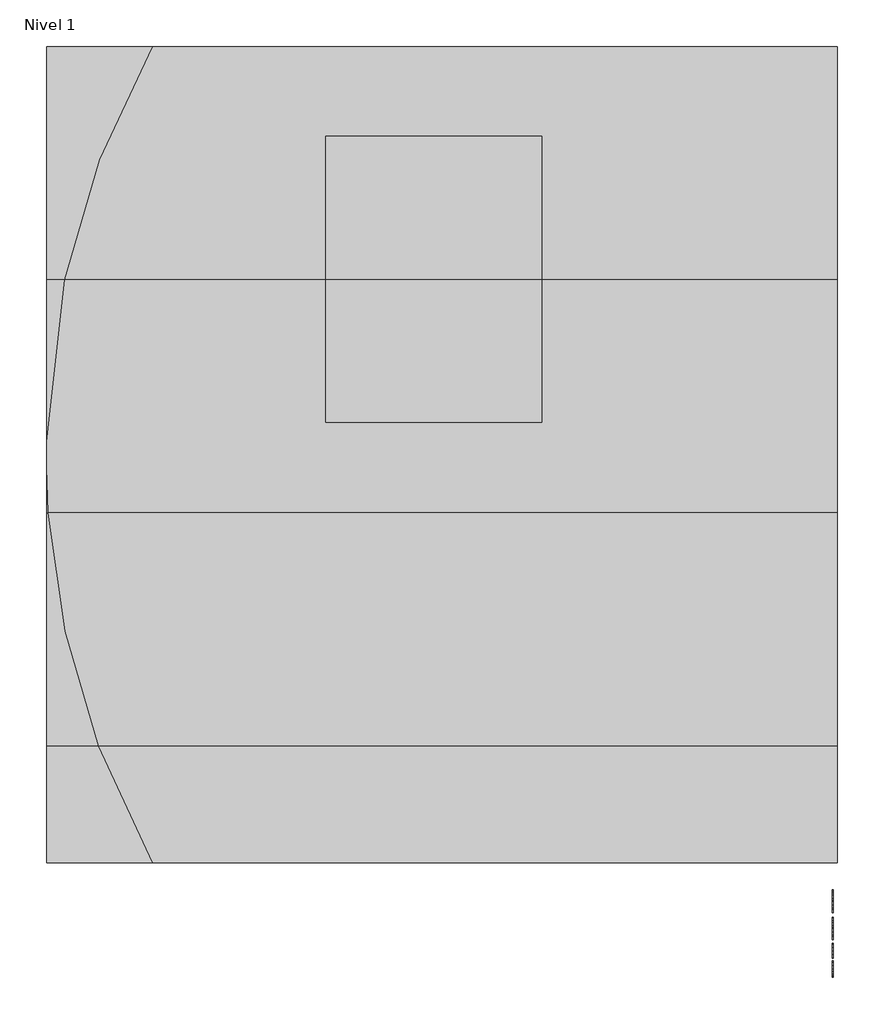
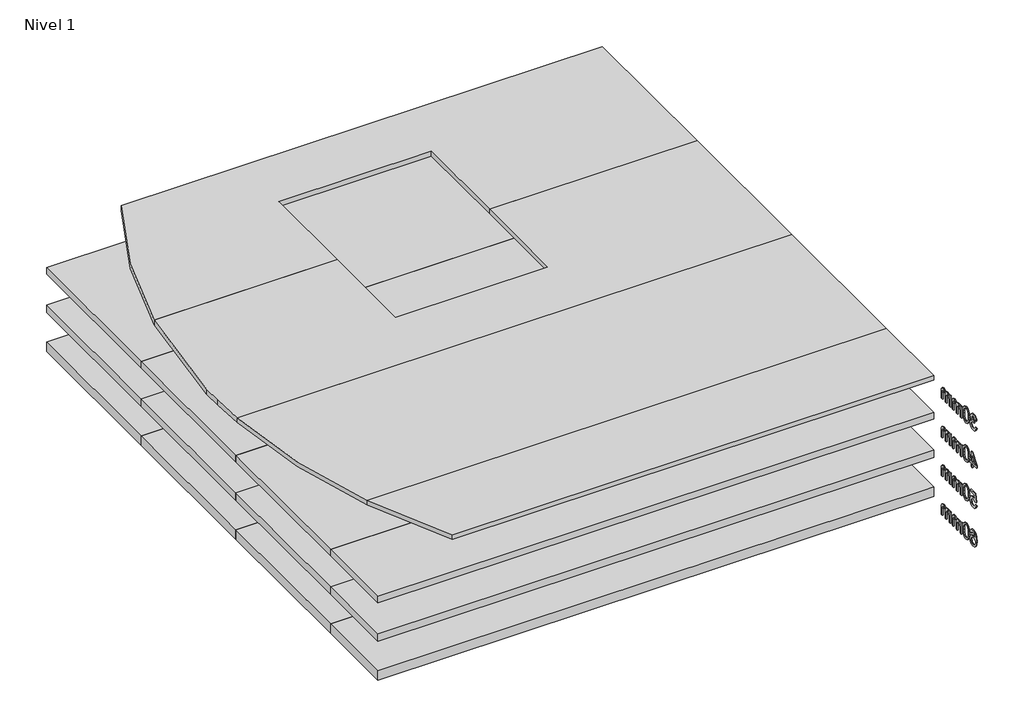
# One storey: 16 plates, 4 proxies.
"""IFC4 building model written with IfcOpenShell, lengths in millimetres."""

from ifc_helpers import new_model, si_unit, frame, origin, place, context, project, spatial, polyline, outline, extrude, transform, mapped, element, save
from components import panel_del_sistema_d493ad30, panel_del_sistema_48dafe26, panel_del_sistema_6634fb51, panel_del_sistema_deb14117, panel_del_sistema_6d8fd6c0, panel_del_sistema_f4682724, panel_del_sistema_14d703db, panel_del_sistema_e4207b6c, panel_del_sistema_6badf2b4, panel_del_sistema_0d385535

model = new_model("IFC4")

# Units and contexts
model_context = context("Model", 3, world=origin())
ifc_project = project(units=[si_unit("LENGTHUNIT", "METRE", prefix="MILLI")], contexts=[model_context])

# Site, building, storey
site = spatial("IfcSite", under=ifc_project)
building = spatial("IfcBuilding", under=site)
storey = spatial("IfcBuildingStorey", under=building, Name="Nivel 1", Elevation=0.0)

# Proxies
placement = place(None, origin())
element("IfcBuildingElementProxy", 1, Name="100mm Arial", ObjectType="100mm Arial", at=placement, inside=storey, context=model_context, shape_type="SweptSolid", body=[
    extrude(outline(polyline([(14811.6332666, -40.4578656), (14824.1903054, -38.8882358), (14831.1187496, -52.1074622), (14844.0804586, -56.1541641), (14852.6888973, -54.7623439), (14859.3352987, -50.5868832), (14865.0006814, -36.8035712), (14859.3843496, -23.8173367), (14845.1105282, -18.6792515), (14836.3058858, -20.0526776), (14837.7038373, -7.4956389), (14839.7149256, -7.6427917), (14853.9642215, -4.0375481), (14858.7098993, 0.5364513), (14860.2917918, 7.0479627), (14855.7055296, 16.8704119), (14843.8842549, 20.7576984), (14831.9158273, 16.8336237), (14825.7599352, 5.0613999), (14813.2028965, 6.6310297), (14816.9001105, 17.9066129), (14823.4790669, 26.3249792), (14832.479913, 31.5672976), (14843.4427965, 33.3147371), (14858.5872719, 29.8689091), (14869.1822734, 20.45113), (14872.8488306, 7.7837267), (14869.3662144, -3.7922935), (14859.0655185, -12.1064266), (14872.7507287, -20.6903398), (14877.5577201, -37.0243004), (14875.1542244, -49.2625081), (14867.9437373, -59.4896275), (14857.0605616, -66.405809), (14843.6390002, -68.7112029), (14831.4988943, -66.7430342), (14821.6151314, -60.8385282), (14814.7418695, -51.8070252), (14811.6332666, -40.4578656)])), frame((9557.0230098, 0.0, 0.0), z_axis=(1.0, 0.0, 0.0), x_axis=(0.0, 1.0, 0.0)), (0.0, 0.0, 1.0), 5.0),
    extrude(outline(polyline([(14888.5451291, -17.7227583), (14892.2362118, 11.1805037), (14903.1990952, 27.8455581), (14921.5073558, 33.3147371), (14936.1735847, 30.0773756), (14946.3026023, 20.7454356), (14952.1887142, 5.883003), (14954.4695826, -17.7227583), (14950.8152881, -46.5033931), (14939.8891929, -63.2052357), (14931.6578332, -67.3347111), (14921.5073558, -68.7112029), (14908.4598077, -66.3199699), (14898.5515193, -59.146271), (14891.0467266, -42.1562542), (14888.5451291, -17.7227583)]), holes=[polyline([(14901.1021678, -17.6982329), (14902.5736958, -37.4504303), (14906.9882798, -48.8823633), (14913.5611047, -54.3362139), (14921.5073558, -56.1541641), (14929.4536069, -54.3300825), (14936.0264319, -48.8578379), (14940.4410159, -37.4197735), (14941.9125438, -17.6982329), (14940.4900668, 1.6094405), (14936.2226356, 13.1302783), (14929.6620734, 18.8508433), (14921.360203, 20.7576984), (14913.4997911, 19.0777039), (14907.1844835, 14.0377206), (14902.6227467, 1.7995129), (14901.1021678, -17.6982329)])]), frame((9557.0230098, 0.0, 0.0), z_axis=(1.0, 0.0, 0.0), x_axis=(0.0, 1.0, 0.0)), (0.0, 0.0, 1.0), 5.0),
    extrude(outline(polyline([(14968.5962512, -67.141573), (14968.5962512, 6.6310297), (14981.15329, 6.6310297), (14981.15329, -5.5090761), (14989.7862541, 4.4360005), (15002.0735128, 8.2006596), (15014.655077, 4.3624241), (15021.5712585, -6.3919929), (15031.3691823, 4.5524965), (15043.7422801, 8.2006596), (15053.181519, 6.6831464), (15060.1620798, 2.1306067), (15064.4754962, -5.5795868), (15065.9133017, -16.5700614), (15065.9133017, -67.141573), (15053.3562629, -67.141573), (15053.3562629, -21.965664), (15052.1913033, -11.4810272), (15047.972923, -6.3184165), (15040.7992241, -4.3563792), (15028.4506518, -9.3840998), (15024.7626348, -15.9262679), (15023.5332958, -25.4973312), (15023.5332958, -67.141573), (15010.9762571, -67.141573), (15010.9762571, -20.5677124), (15008.0699893, -8.4030811), (14998.5418456, -4.3563792), (14989.2466939, -7.0541805), (14983.0662764, -14.9513806), (14981.15329, -29.9364406), (14981.15329, -67.141573), (14968.5962512, -67.141573)])), frame((9557.0230098, 0.0, 0.0), z_axis=(1.0, 0.0, 0.0), x_axis=(0.0, 1.0, 0.0)), (0.0, 0.0, 1.0), 5.0),
    extrude(outline(polyline([(15084.7488598, -67.141573), (15084.7488598, 6.6310297), (15097.3058986, 6.6310297), (15097.3058986, -5.5090761), (15105.9388628, 4.4360005), (15118.2261214, 8.2006596), (15130.8076856, 4.3624241), (15137.7238671, -6.3919929), (15147.5217909, 4.5524965), (15159.8948887, 8.2006596), (15169.3341276, 6.6831464), (15176.3146884, 2.1306067), (15180.6281048, -5.5795868), (15182.0659103, -16.5700614), (15182.0659103, -67.141573), (15169.5088715, -67.141573), (15169.5088715, -21.965664), (15168.3439119, -11.4810272), (15164.1255317, -6.3184165), (15156.9518327, -4.3563792), (15144.6032604, -9.3840998), (15140.9152434, -15.9262679), (15139.6859044, -25.4973312), (15139.6859044, -67.141573), (15127.1288657, -67.141573), (15127.1288657, -20.5677124), (15124.2225979, -8.4030811), (15114.6944542, -4.3563792), (15105.3993025, -7.0541805), (15099.218885, -14.9513806), (15097.3058986, -29.9364406), (15097.3058986, -67.141573), (15084.7488598, -67.141573)])), frame((9557.0230098, 0.0, 0.0), z_axis=(1.0, 0.0, 0.0), x_axis=(0.0, 1.0, 0.0)), (0.0, 0.0, 1.0), 5.0),
])
element("IfcBuildingElementProxy", 2, Name="100mm Arial", ObjectType="100mm Arial", at=placement, inside=storey, context=model_context, shape_type="SweptSolid", body=[
    extrude(outline(polyline([(14852.4436426, -317.141573), (14852.4436426, -293.5971253), (14806.9243771, -293.5971253), (14806.9243771, -281.0400866), (14855.5829023, -218.2548927), (14865.0006814, -218.2548927), (14865.0006814, -281.0400866), (14877.5577201, -281.0400866), (14877.5577201, -293.5971253), (14865.0006814, -293.5971253), (14865.0006814, -317.141573), (14852.4436426, -317.141573)]), holes=[polyline([(14852.4436426, -281.0400866), (14852.4436426, -242.2407988), (14822.3754209, -281.0400866), (14852.4436426, -281.0400866)])]), frame((9557.0230098, 0.0, 0.0), z_axis=(1.0, 0.0, 0.0), x_axis=(0.0, 1.0, 0.0)), (0.0, 0.0, 1.0), 5.0),
    extrude(outline(polyline([(14888.5451291, -267.7227583), (14892.2362118, -238.8194963), (14903.1990952, -222.1544419), (14921.5073558, -216.6852629), (14936.1735847, -219.9226244), (14946.3026023, -229.2545644), (14952.1887142, -244.116997), (14954.4695826, -267.7227583), (14950.8152881, -296.5033931), (14939.8891929, -313.2052357), (14931.6578332, -317.3347111), (14921.5073558, -318.7112029), (14908.4598077, -316.3199699), (14898.5515193, -309.146271), (14891.0467266, -292.1562542), (14888.5451291, -267.7227583)]), holes=[polyline([(14901.1021678, -267.6982329), (14902.5736958, -287.4504303), (14906.9882798, -298.8823633), (14913.5611047, -304.3362139), (14921.5073558, -306.1541641), (14929.4536069, -304.3300825), (14936.0264319, -298.8578379), (14940.4410159, -287.4197735), (14941.9125438, -267.6982329), (14940.4900668, -248.3905595), (14936.2226356, -236.8697217), (14929.6620734, -231.1491567), (14921.360203, -229.2423016), (14913.4997911, -230.9222961), (14907.1844835, -235.9622794), (14902.6227467, -248.2004871), (14901.1021678, -267.6982329)])]), frame((9557.0230098, 0.0, 0.0), z_axis=(1.0, 0.0, 0.0), x_axis=(0.0, 1.0, 0.0)), (0.0, 0.0, 1.0), 5.0),
    extrude(outline(polyline([(14968.5962512, -317.141573), (14968.5962512, -243.3689703), (14981.15329, -243.3689703), (14981.15329, -255.5090761), (14989.7862541, -245.5639995), (15002.0735128, -241.7993404), (15014.655077, -245.6375759), (15021.5712585, -256.3919929), (15031.3691823, -245.4475035), (15043.7422801, -241.7993404), (15053.181519, -243.3168536), (15060.1620798, -247.8693933), (15064.4754962, -255.5795868), (15065.9133017, -266.5700614), (15065.9133017, -317.141573), (15053.3562629, -317.141573), (15053.3562629, -271.965664), (15052.1913033, -261.4810272), (15047.972923, -256.3184165), (15040.7992241, -254.3563792), (15028.4506518, -259.3840998), (15024.7626348, -265.9262679), (15023.5332958, -275.4973312), (15023.5332958, -317.141573), (15010.9762571, -317.141573), (15010.9762571, -270.5677124), (15008.0699893, -258.4030811), (14998.5418456, -254.3563792), (14989.2466939, -257.0541805), (14983.0662764, -264.9513806), (14981.15329, -279.9364406), (14981.15329, -317.141573), (14968.5962512, -317.141573)])), frame((9557.0230098, 0.0, 0.0), z_axis=(1.0, 0.0, 0.0), x_axis=(0.0, 1.0, 0.0)), (0.0, 0.0, 1.0), 5.0),
    extrude(outline(polyline([(15084.7488598, -317.141573), (15084.7488598, -243.3689703), (15097.3058986, -243.3689703), (15097.3058986, -255.5090761), (15105.9388628, -245.5639995), (15118.2261214, -241.7993404), (15130.8076856, -245.6375759), (15137.7238671, -256.3919929), (15147.5217909, -245.4475035), (15159.8948887, -241.7993404), (15169.3341276, -243.3168536), (15176.3146884, -247.8693933), (15180.6281048, -255.5795868), (15182.0659103, -266.5700614), (15182.0659103, -317.141573), (15169.5088715, -317.141573), (15169.5088715, -271.965664), (15168.3439119, -261.4810272), (15164.1255317, -256.3184165), (15156.9518327, -254.3563792), (15144.6032604, -259.3840998), (15140.9152434, -265.9262679), (15139.6859044, -275.4973312), (15139.6859044, -317.141573), (15127.1288657, -317.141573), (15127.1288657, -270.5677124), (15124.2225979, -258.4030811), (15114.6944542, -254.3563792), (15105.3993025, -257.0541805), (15099.218885, -264.9513806), (15097.3058986, -279.9364406), (15097.3058986, -317.141573), (15084.7488598, -317.141573)])), frame((9557.0230098, 0.0, 0.0), z_axis=(1.0, 0.0, 0.0), x_axis=(0.0, 1.0, 0.0)), (0.0, 0.0, 1.0), 5.0),
])
element("IfcBuildingElementProxy", 3, Name="100mm Arial", ObjectType="100mm Arial", at=placement, inside=storey, context=model_context, shape_type="SweptSolid", body=[
    extrude(outline(polyline([(14811.6332666, -540.4578656), (14824.1903054, -538.8882358), (14830.5178757, -551.8254193), (14843.6390002, -556.1541641), (14852.6398463, -554.6489136), (14859.3843496, -550.1331621), (14863.5965984, -543.1280758), (14865.0006814, -534.1548208), (14859.7399688, -519.2433373), (14853.1334213, -515.141453), (14843.8352039, -513.7741583), (14832.8110068, -515.9569248), (14825.7599352, -521.6223075), (14813.2028965, -520.0526776), (14824.1903054, -468.2548927), (14872.8488306, -468.2548927), (14872.8488306, -480.8119315), (14834.3438484, -480.8119315), (14828.9727713, -508.4766575), (14837.9429606, -503.032004), (14847.3423456, -501.2171195), (14859.0747156, -503.467331), (14868.8143914, -510.2179656), (14875.371888, -520.5063988), (14877.5577201, -533.3700059), (14875.5895515, -545.9270446), (14869.6850454, -556.6691989), (14858.3788055, -565.7007019), (14843.5899493, -568.7112029), (14831.2567054, -566.7767567), (14821.4311904, -560.9734182), (14814.6958842, -551.9756378), (14811.6332666, -540.4578656)])), frame((9557.0230098, 0.0, 0.0), z_axis=(1.0, 0.0, 0.0), x_axis=(0.0, 1.0, 0.0)), (0.0, 0.0, 1.0), 5.0),
    extrude(outline(polyline([(14888.5451291, -517.7227583), (14892.2362118, -488.8194963), (14903.1990952, -472.1544419), (14921.5073558, -466.6852629), (14936.1735847, -469.9226244), (14946.3026023, -479.2545644), (14952.1887142, -494.116997), (14954.4695826, -517.7227583), (14950.8152881, -546.5033931), (14939.8891929, -563.2052357), (14931.6578332, -567.3347111), (14921.5073558, -568.7112029), (14908.4598077, -566.3199699), (14898.5515193, -559.146271), (14891.0467266, -542.1562542), (14888.5451291, -517.7227583)]), holes=[polyline([(14901.1021678, -517.6982329), (14902.5736958, -537.4504303), (14906.9882798, -548.8823633), (14913.5611047, -554.3362139), (14921.5073558, -556.1541641), (14929.4536069, -554.3300825), (14936.0264319, -548.8578379), (14940.4410159, -537.4197735), (14941.9125438, -517.6982329), (14940.4900668, -498.3905595), (14936.2226356, -486.8697217), (14929.6620734, -481.1491567), (14921.360203, -479.2423016), (14913.4997911, -480.9222961), (14907.1844835, -485.9622794), (14902.6227467, -498.2004871), (14901.1021678, -517.6982329)])]), frame((9557.0230098, 0.0, 0.0), z_axis=(1.0, 0.0, 0.0), x_axis=(0.0, 1.0, 0.0)), (0.0, 0.0, 1.0), 5.0),
    extrude(outline(polyline([(14968.5962512, -567.141573), (14968.5962512, -493.3689703), (14981.15329, -493.3689703), (14981.15329, -505.5090761), (14989.7862541, -495.5639995), (15002.0735128, -491.7993404), (15014.655077, -495.6375759), (15021.5712585, -506.3919929), (15031.3691823, -495.4475035), (15043.7422801, -491.7993404), (15053.181519, -493.3168536), (15060.1620798, -497.8693933), (15064.4754962, -505.5795868), (15065.9133017, -516.5700614), (15065.9133017, -567.141573), (15053.3562629, -567.141573), (15053.3562629, -521.965664), (15052.1913033, -511.4810272), (15047.972923, -506.3184165), (15040.7992241, -504.3563792), (15028.4506518, -509.3840998), (15024.7626348, -515.9262679), (15023.5332958, -525.4973312), (15023.5332958, -567.141573), (15010.9762571, -567.141573), (15010.9762571, -520.5677124), (15008.0699893, -508.4030811), (14998.5418456, -504.3563792), (14989.2466939, -507.0541805), (14983.0662764, -514.9513806), (14981.15329, -529.9364406), (14981.15329, -567.141573), (14968.5962512, -567.141573)])), frame((9557.0230098, 0.0, 0.0), z_axis=(1.0, 0.0, 0.0), x_axis=(0.0, 1.0, 0.0)), (0.0, 0.0, 1.0), 5.0),
    extrude(outline(polyline([(15084.7488598, -567.141573), (15084.7488598, -493.3689703), (15097.3058986, -493.3689703), (15097.3058986, -505.5090761), (15105.9388628, -495.5639995), (15118.2261214, -491.7993404), (15130.8076856, -495.6375759), (15137.7238671, -506.3919929), (15147.5217909, -495.4475035), (15159.8948887, -491.7993404), (15169.3341276, -493.3168536), (15176.3146884, -497.8693933), (15180.6281048, -505.5795868), (15182.0659103, -516.5700614), (15182.0659103, -567.141573), (15169.5088715, -567.141573), (15169.5088715, -521.965664), (15168.3439119, -511.4810272), (15164.1255317, -506.3184165), (15156.9518327, -504.3563792), (15144.6032604, -509.3840998), (15140.9152434, -515.9262679), (15139.6859044, -525.4973312), (15139.6859044, -567.141573), (15127.1288657, -567.141573), (15127.1288657, -520.5677124), (15124.2225979, -508.4030811), (15114.6944542, -504.3563792), (15105.3993025, -507.0541805), (15099.218885, -514.9513806), (15097.3058986, -529.9364406), (15097.3058986, -567.141573), (15084.7488598, -567.141573)])), frame((9557.0230098, 0.0, 0.0), z_axis=(1.0, 0.0, 0.0), x_axis=(0.0, 1.0, 0.0)), (0.0, 0.0, 1.0), 5.0),
])
element("IfcBuildingElementProxy", 4, Name="100mm Arial", ObjectType="100mm Arial", at=placement, inside=storey, context=model_context, shape_type="SweptSolid", body=[
    extrude(outline(polyline([(14875.9880903, -743.3689703), (14863.4310515, -744.9386001), (14858.6731111, -734.466226), (14846.0915468, -729.2423016), (14834.7607814, -732.2834595), (14826.1891309, -743.7000641), (14822.6206755, -766.0795521), (14833.6939236, -756.0608991), (14847.415922, -752.7867493), (14859.0164676, -755.0246981), (14868.7530777, -761.7385446), (14875.3565595, -771.9963209), (14877.5577201, -784.8660593), (14873.4129163, -802.1933013), (14862.0085745, -814.4560345), (14845.5519866, -818.7112029), (14831.3057563, -815.8907742), (14819.9596624, -807.4294884), (14812.5376432, -792.4934794), (14810.0636368, -770.2488814), (14812.810489, -745.2390371), (14821.0510457, -728.1386557), (14832.3021034, -719.5486111), (14846.8763617, -716.6852629), (14857.8944275, -718.4572278), (14866.717464, -723.7731227), (14872.8978815, -732.2160144), (14875.9880903, -743.3689703)]), holes=[polyline([(14822.6206755, -784.6698556), (14825.5269433, -795.5468999), (14833.2524652, -803.4441001), (14844.5709679, -806.1541641), (14852.8575099, -804.7500812), (14859.3720868, -800.5378323), (14863.5935327, -793.9159564), (14865.0006814, -785.2829922), (14863.6119268, -776.9964503), (14859.4456632, -770.678077), (14852.8207217, -766.6773603), (14844.0559331, -765.3437881), (14828.8624067, -770.678077), (14824.1811083, -776.8431661), (14822.6206755, -784.6698556)])]), frame((9557.0230098, 0.0, 0.0), z_axis=(1.0, 0.0, 0.0), x_axis=(0.0, 1.0, 0.0)), (0.0, 0.0, 1.0), 5.0),
    extrude(outline(polyline([(14888.5451291, -767.7227583), (14892.2362118, -738.8194963), (14903.1990952, -722.1544419), (14921.5073558, -716.6852629), (14936.1735847, -719.9226244), (14946.3026023, -729.2545644), (14952.1887142, -744.116997), (14954.4695826, -767.7227583), (14950.8152881, -796.5033931), (14939.8891929, -813.2052357), (14931.6578332, -817.3347111), (14921.5073558, -818.7112029), (14908.4598077, -816.3199699), (14898.5515193, -809.146271), (14891.0467266, -792.1562542), (14888.5451291, -767.7227583)]), holes=[polyline([(14901.1021678, -767.6982329), (14902.5736958, -787.4504303), (14906.9882798, -798.8823633), (14913.5611047, -804.3362139), (14921.5073558, -806.1541641), (14929.4536069, -804.3300825), (14936.0264319, -798.8578379), (14940.4410159, -787.4197735), (14941.9125438, -767.6982329), (14940.4900668, -748.3905595), (14936.2226356, -736.8697217), (14929.6620734, -731.1491567), (14921.360203, -729.2423016), (14913.4997911, -730.9222961), (14907.1844835, -735.9622794), (14902.6227467, -748.2004871), (14901.1021678, -767.6982329)])]), frame((9557.0230098, 0.0, 0.0), z_axis=(1.0, 0.0, 0.0), x_axis=(0.0, 1.0, 0.0)), (0.0, 0.0, 1.0), 5.0),
    extrude(outline(polyline([(14968.5962512, -817.141573), (14968.5962512, -743.3689703), (14981.15329, -743.3689703), (14981.15329, -755.5090761), (14989.7862541, -745.5639995), (15002.0735128, -741.7993404), (15014.655077, -745.6375759), (15021.5712585, -756.3919929), (15031.3691823, -745.4475035), (15043.7422801, -741.7993404), (15053.181519, -743.3168536), (15060.1620798, -747.8693933), (15064.4754962, -755.5795868), (15065.9133017, -766.5700614), (15065.9133017, -817.141573), (15053.3562629, -817.141573), (15053.3562629, -771.965664), (15052.1913033, -761.4810272), (15047.972923, -756.3184165), (15040.7992241, -754.3563792), (15028.4506518, -759.3840998), (15024.7626348, -765.9262679), (15023.5332958, -775.4973312), (15023.5332958, -817.141573), (15010.9762571, -817.141573), (15010.9762571, -770.5677124), (15008.0699893, -758.4030811), (14998.5418456, -754.3563792), (14989.2466939, -757.0541805), (14983.0662764, -764.9513806), (14981.15329, -779.9364406), (14981.15329, -817.141573), (14968.5962512, -817.141573)])), frame((9557.0230098, 0.0, 0.0), z_axis=(1.0, 0.0, 0.0), x_axis=(0.0, 1.0, 0.0)), (0.0, 0.0, 1.0), 5.0),
    extrude(outline(polyline([(15084.7488598, -817.141573), (15084.7488598, -743.3689703), (15097.3058986, -743.3689703), (15097.3058986, -755.5090761), (15105.9388628, -745.5639995), (15118.2261214, -741.7993404), (15130.8076856, -745.6375759), (15137.7238671, -756.3919929), (15147.5217909, -745.4475035), (15159.8948887, -741.7993404), (15169.3341276, -743.3168536), (15176.3146884, -747.8693933), (15180.6281048, -755.5795868), (15182.0659103, -766.5700614), (15182.0659103, -817.141573), (15169.5088715, -817.141573), (15169.5088715, -771.965664), (15168.3439119, -761.4810272), (15164.1255317, -756.3184165), (15156.9518327, -754.3563792), (15144.6032604, -759.3840998), (15140.9152434, -765.9262679), (15139.6859044, -775.4973312), (15139.6859044, -817.141573), (15127.1288657, -817.141573), (15127.1288657, -770.5677124), (15124.2225979, -758.4030811), (15114.6944542, -754.3563792), (15105.3993025, -757.0541805), (15099.218885, -764.9513806), (15097.3058986, -779.9364406), (15097.3058986, -817.141573), (15084.7488598, -817.141573)])), frame((9557.0230098, 0.0, 0.0), z_axis=(1.0, 0.0, 0.0), x_axis=(0.0, 1.0, 0.0)), (0.0, 0.0, 1.0), 5.0),
])

# Plates
panel_del_sistema_shape = panel_del_sistema_d493ad30(model_context)
element("IfcPlate", 5, ObjectType="Panel del sistema : HIANSA PANEL - PANELES DE CUBIERTA SIN TAPAJUNTA - EASY CUB 3GR - Esp. 40mm", at=placement, inside=storey, context=model_context, shape_type="MappedRepresentation", body=[
    mapped(panel_del_sistema_shape, transform((9579.0356399, 18298.3330794, -279.5990172), x_axis=(0.0, -1.0, 0.0), y_axis=(0.0, 0.0, 1.0), z_axis=(-1.0, 0.0, 0.0))),
])
element("IfcPlate", 6, ObjectType="Panel del sistema : HIANSA PANEL - PANELES DE CUBIERTA SIN TAPAJUNTA - EASY CUB 3GR - Esp. 40mm", at=placement, inside=storey, context=model_context, shape_type="MappedRepresentation", body=[
    mapped(panel_del_sistema_shape, transform((9579.0356399, 17298.3330793, -279.5990172), x_axis=(0.0, -1.0, 0.0), y_axis=(0.0, 0.0, 1.0), z_axis=(-1.0, 0.0, 0.0))),
])
element("IfcPlate", 7, ObjectType="Panel del sistema : HIANSA PANEL - PANELES DE CUBIERTA SIN TAPAJUNTA - EASY CUB 3GR - Esp. 40mm", at=placement, inside=storey, context=model_context, shape_type="MappedRepresentation", body=[
    mapped(panel_del_sistema_shape, transform((9579.0356399, 16298.3330793, -279.5990172), x_axis=(0.0, -1.0, 0.0), y_axis=(0.0, 0.0, 1.0), z_axis=(-1.0, 0.0, 0.0))),
])
panel_del_sistema_2_shape = panel_del_sistema_48dafe26(model_context)
element("IfcPlate", 8, ObjectType="Panel del sistema : HIANSA PANEL - PANELES DE CUBIERTA SIN TAPAJUNTA - EASY CUB 3GR - Esp. 40mm", at=placement, inside=storey, context=model_context, shape_type="MappedRepresentation", body=[
    mapped(panel_del_sistema_2_shape, transform((9579.0356399, 15548.3330794, -279.5990172), x_axis=(0.0, -1.0, 0.0), y_axis=(0.0, 0.0, 1.0), z_axis=(-1.0, 0.0, 0.0))),
])
panel_del_sistema_3_shape = panel_del_sistema_6634fb51(model_context)
element("IfcPlate", 9, ObjectType="Panel del sistema : HIANSA PANEL - PANELES DE CUBIERTA SIN TAPAJUNTA - EASY CUB 3GR - Esp. 50mm", at=placement, inside=storey, context=model_context, shape_type="MappedRepresentation", body=[
    mapped(panel_del_sistema_3_shape, transform((9579.0356399, 18298.3330794, -529.5962409), x_axis=(0.0, -1.0, 0.0), y_axis=(0.0, 0.0, 1.0), z_axis=(-1.0, 0.0, 0.0))),
])
element("IfcPlate", 10, ObjectType="Panel del sistema : HIANSA PANEL - PANELES DE CUBIERTA SIN TAPAJUNTA - EASY CUB 3GR - Esp. 50mm", at=placement, inside=storey, context=model_context, shape_type="MappedRepresentation", body=[
    mapped(panel_del_sistema_3_shape, transform((9579.0356399, 17298.3330793, -529.5962409), x_axis=(0.0, -1.0, 0.0), y_axis=(0.0, 0.0, 1.0), z_axis=(-1.0, 0.0, 0.0))),
])
element("IfcPlate", 11, ObjectType="Panel del sistema : HIANSA PANEL - PANELES DE CUBIERTA SIN TAPAJUNTA - EASY CUB 3GR - Esp. 50mm", at=placement, inside=storey, context=model_context, shape_type="MappedRepresentation", body=[
    mapped(panel_del_sistema_3_shape, transform((9579.0356399, 16298.3330793, -529.5962409), x_axis=(0.0, -1.0, 0.0), y_axis=(0.0, 0.0, 1.0), z_axis=(-1.0, 0.0, 0.0))),
])
panel_del_sistema_4_shape = panel_del_sistema_deb14117(model_context)
element("IfcPlate", 12, ObjectType="Panel del sistema : HIANSA PANEL - PANELES DE CUBIERTA SIN TAPAJUNTA - EASY CUB 3GR - Esp. 50mm", at=placement, inside=storey, context=model_context, shape_type="MappedRepresentation", body=[
    mapped(panel_del_sistema_4_shape, transform((9579.0356399, 15548.3330794, -529.5962409), x_axis=(0.0, -1.0, 0.0), y_axis=(0.0, 0.0, 1.0), z_axis=(-1.0, 0.0, 0.0))),
])
panel_del_sistema_5_shape = panel_del_sistema_6d8fd6c0(model_context)
element("IfcPlate", 13, ObjectType="Panel del sistema : HIANSA PANEL - PANELES DE CUBIERTA SIN TAPAJUNTA - EASY CUB 3GR - Esp. 60mm", at=placement, inside=storey, context=model_context, shape_type="MappedRepresentation", body=[
    mapped(panel_del_sistema_5_shape, transform((9579.0356399, 18298.3330794, -779.5962409), x_axis=(0.0, -1.0, 0.0), y_axis=(0.0, 0.0, 1.0), z_axis=(-1.0, 0.0, 0.0))),
])
element("IfcPlate", 14, ObjectType="Panel del sistema : HIANSA PANEL - PANELES DE CUBIERTA SIN TAPAJUNTA - EASY CUB 3GR - Esp. 60mm", at=placement, inside=storey, context=model_context, shape_type="MappedRepresentation", body=[
    mapped(panel_del_sistema_5_shape, transform((9579.0356399, 17298.3330793, -779.5962409), x_axis=(0.0, -1.0, 0.0), y_axis=(0.0, 0.0, 1.0), z_axis=(-1.0, 0.0, 0.0))),
])
element("IfcPlate", 15, ObjectType="Panel del sistema : HIANSA PANEL - PANELES DE CUBIERTA SIN TAPAJUNTA - EASY CUB 3GR - Esp. 60mm", at=placement, inside=storey, context=model_context, shape_type="MappedRepresentation", body=[
    mapped(panel_del_sistema_5_shape, transform((9579.0356399, 16298.3330793, -779.5962409), x_axis=(0.0, -1.0, 0.0), y_axis=(0.0, 0.0, 1.0), z_axis=(-1.0, 0.0, 0.0))),
])
panel_del_sistema_6_shape = panel_del_sistema_f4682724(model_context)
element("IfcPlate", 16, ObjectType="Panel del sistema : HIANSA PANEL - PANELES DE CUBIERTA SIN TAPAJUNTA - EASY CUB 3GR - Esp. 60mm", at=placement, inside=storey, context=model_context, shape_type="MappedRepresentation", body=[
    mapped(panel_del_sistema_6_shape, transform((9579.0356399, 15548.3330794, -779.5962409), x_axis=(0.0, -1.0, 0.0), y_axis=(0.0, 0.0, 1.0), z_axis=(-1.0, 0.0, 0.0))),
])
panel_del_sistema_7_shape = panel_del_sistema_14d703db(model_context)
element("IfcPlate", 17, ObjectType="Panel del sistema : HIANSA PANEL - PANELES DE CUBIERTA SIN TAPAJUNTA - EASY CUB 3GR - Esp. 30mm", at=placement, inside=storey, context=model_context, shape_type="MappedRepresentation", body=[
    mapped(panel_del_sistema_7_shape, transform((9579.0356399, 18298.3330794, -29.5962409), x_axis=(0.0, -1.0, 0.0), y_axis=(0.0, 0.0, 1.0), z_axis=(-1.0, 0.0, 0.0))),
])
panel_del_sistema_8_shape = panel_del_sistema_e4207b6c(model_context)
element("IfcPlate", 18, ObjectType="Panel del sistema : HIANSA PANEL - PANELES DE CUBIERTA SIN TAPAJUNTA - EASY CUB 3GR - Esp. 30mm", at=placement, inside=storey, context=model_context, shape_type="MappedRepresentation", body=[
    mapped(panel_del_sistema_8_shape, transform((9579.0356399, 17298.3330793, -29.5962409), x_axis=(0.0, -1.0, 0.0), y_axis=(0.0, 0.0, 1.0), z_axis=(-1.0, 0.0, 0.0))),
])
panel_del_sistema_9_shape = panel_del_sistema_6badf2b4(model_context)
element("IfcPlate", 19, ObjectType="Panel del sistema : HIANSA PANEL - PANELES DE CUBIERTA SIN TAPAJUNTA - EASY CUB 3GR - Esp. 30mm", at=placement, inside=storey, context=model_context, shape_type="MappedRepresentation", body=[
    mapped(panel_del_sistema_9_shape, transform((9579.0356399, 16298.3330793, -29.5962409), x_axis=(0.0, -1.0, 0.0), y_axis=(0.0, 0.0, 1.0), z_axis=(-1.0, 0.0, 0.0))),
])
panel_del_sistema_10_shape = panel_del_sistema_0d385535(model_context)
element("IfcPlate", 20, ObjectType="Panel del sistema : HIANSA PANEL - PANELES DE CUBIERTA SIN TAPAJUNTA - EASY CUB 3GR - Esp. 30mm", at=placement, inside=storey, context=model_context, shape_type="MappedRepresentation", body=[
    mapped(panel_del_sistema_10_shape, transform((9579.0356399, 15548.3330794, -29.5962409), x_axis=(0.0, -1.0, 0.0), y_axis=(0.0, 0.0, 1.0), z_axis=(-1.0, 0.0, 0.0))),
])

save(model, "model.ifc")
